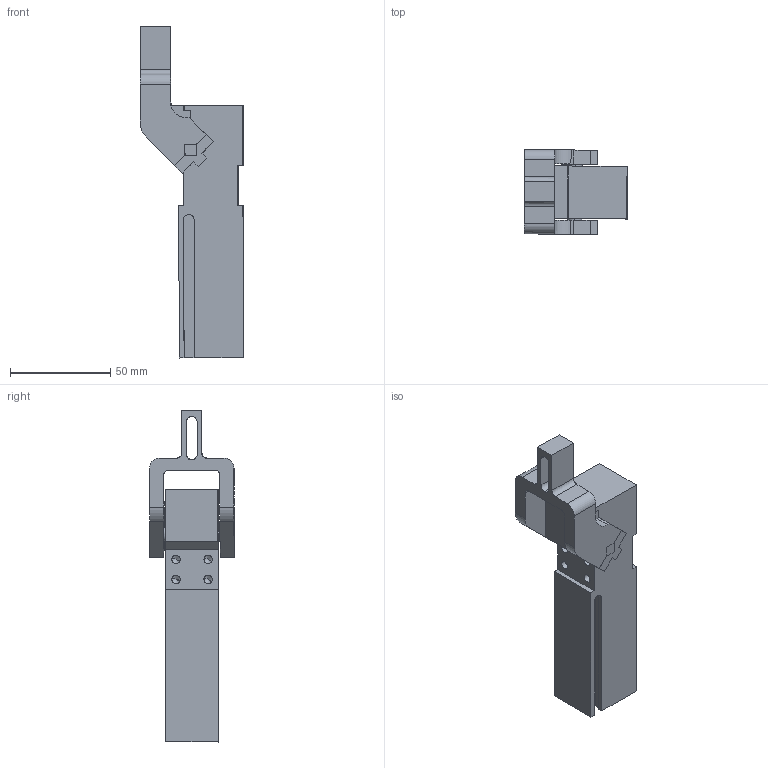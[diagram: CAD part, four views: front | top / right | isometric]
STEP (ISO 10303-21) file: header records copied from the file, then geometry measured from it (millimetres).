
FILE_DESCRIPTION(('CATIA V5 STEP Exchange'),'2;1');
FILE_NAME('G:\Konstruktion\Modelle\Step\K2_16_1_A17_TUENKERS.stp','2008-12-29T12:36:55+00:00',('none'),('none'),'CATIA Version 5 Release 16 (IN-10)','CATIA V5 STEP AP203','none');
FILE_SCHEMA(('CONFIG_CONTROL_DESIGN'));
Length unit declared in the file: millimetre
Products named in the file (1): K2_16_1_A17_TUENKERS
Bounding box: 51.69 x 42.29 x 165.49 mm (x, y, z)
Volume: 118824.2 mm3; surface area: 31876.5 mm2
Topology: 6 solids, 6 shells, 193 faces, 500 edges, 314 vertices
Faces by surface type: plane 125, cylinder 52, cone 16
Entity records: 5311 total; most frequent: ORIENTED_EDGE 968, CARTESIAN_POINT 925, DIRECTION 736, EDGE_CURVE 484, VECTOR 364, LINE 364, VERTEX_POINT 314, AXIS2_PLACEMENT_3D 247
